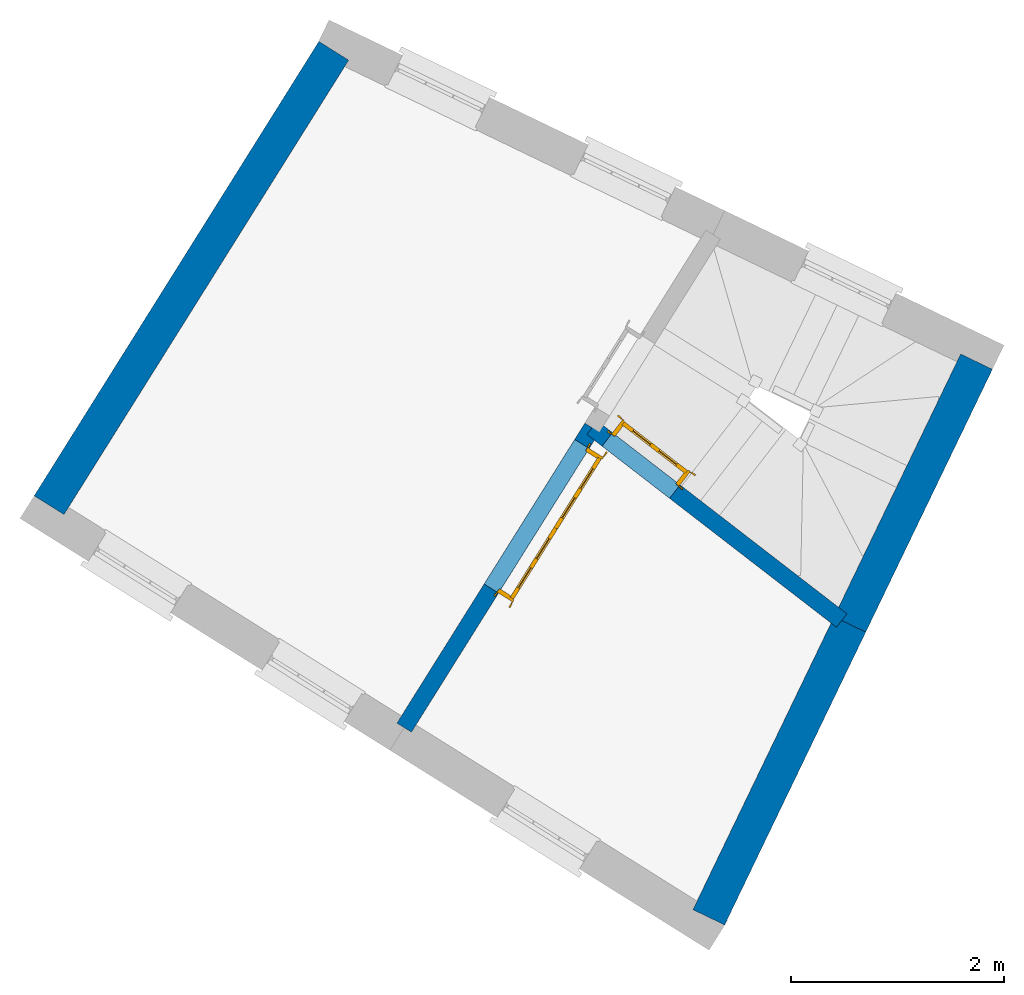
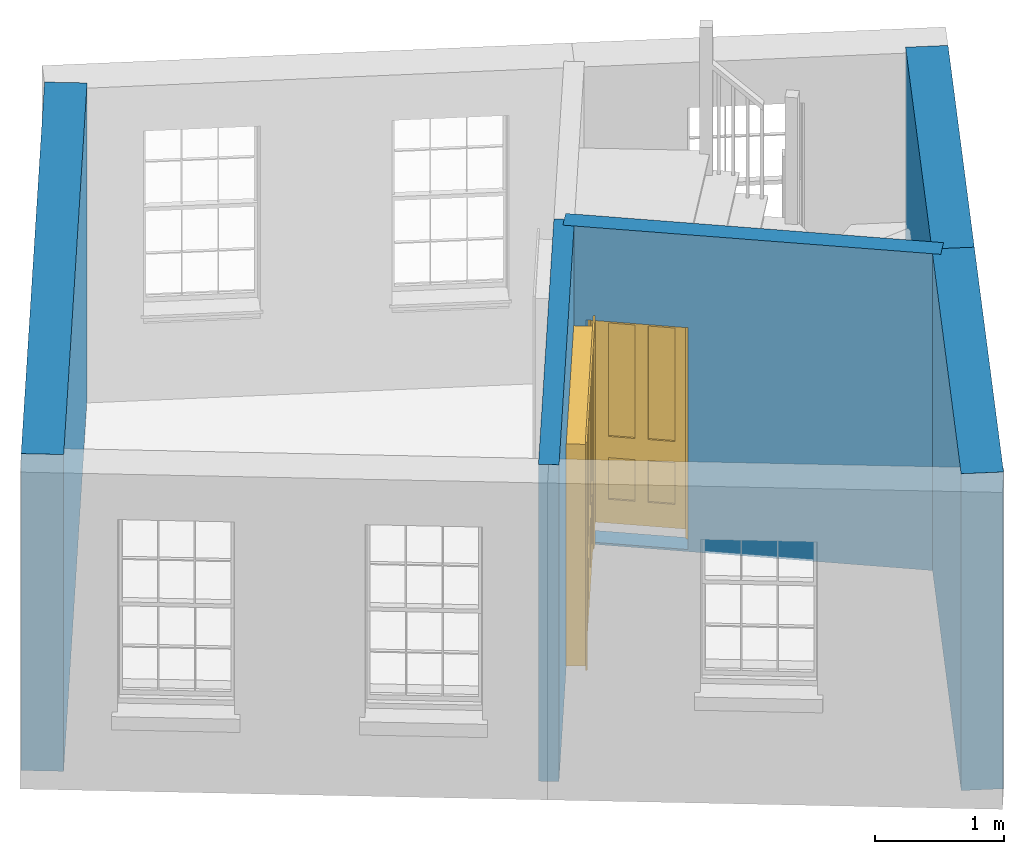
# One storey, part 2 of 4: 5 walls, 2 doors, 2 openings.
"""IFC4 building model written with IfcOpenShell, lengths in metres."""

from ifc_helpers import new_model, si_unit, frame, origin, origin_with_axes, place, context, subcontext, project, spatial, polyline, outline, extrude, faceted_brep, source, transform, mapped, material, layer, layer_set, layer_usage, type_object, type_shapes, element, fill, save


model = new_model("IFC4")

# Units and contexts
model_context = context("Model", 3, world=origin_with_axes())
body_context = subcontext(model_context, "Body", "Model", "MODEL_VIEW")
ifc_project = project(units=[si_unit("PLANEANGLEUNIT", "RADIAN"), si_unit("MASSUNIT", "GRAM", prefix="KILO"), si_unit("FORCEUNIT", "NEWTON", prefix="KILO"), si_unit("LENGTHUNIT", "METRE"), si_unit("AREAUNIT", "SQUARE_METRE"), si_unit("VOLUMEUNIT", "CUBIC_METRE")], contexts=[model_context, model_context])

# Sites, building, storey
site_1_placement = place(None, origin_with_axes())
site_1 = spatial("IfcSite", under=ifc_project, at=site_1_placement, Name="Tamar")
site_2_placement = place(site_1_placement, origin_with_axes())
site_2 = spatial("IfcSite", under=site_1, at=site_2_placement, Name="Site plot-0", CompositionType="ELEMENT")
building_placement = place(None, origin_with_axes())
building = spatial("IfcBuilding", under=site_2, at=building_placement, Name="Building plot-0", CompositionType="ELEMENT")
storey_placement = place(None, frame((0.0, 0.0, 29.3), z_axis=(0.0, 0.0, 1.0), x_axis=(1.0, 0.0, 0.0)))
storey = spatial("IfcBuildingStorey", under=building, at=storey_placement, Name="plot-0 1", CompositionType="ELEMENT", Elevation=29.3)

# Walls
ifc_material_1 = material(Name="Masonry")
ifc_layer_1 = layer(ifc_material_1, 0.33, ventilated=False)
ifc_layer_set_1 = layer_set([ifc_layer_1], Name="party_0.08_0.25")
ifc_layer_usage_1 = layer_usage(ifc_layer_set_1, "AXIS2", "POSITIVE", -0.25)
wall_type_1 = type_object("IfcWallType", Name="party_0.08_0.25", PredefinedType="SOLIDWALL", material=ifc_layer_set_1)
wall_1_placement = place(storey_placement, frame((215.519104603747, 302.912885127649, 0.0), z_axis=(0.0, 0.0, 1.0), x_axis=(-0.530945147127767, -0.847406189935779, 0.0)))
element("IfcWall", 1, at=wall_1_placement, inside=storey, type_object=wall_type_1, material=ifc_layer_usage_1, Name="party", context=body_context, shape_type="SweptSolid", body=[
    extrude(outline(polyline([(1.27412785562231e-16, 0.0799999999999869), (-5.53580703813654e-15, -0.250000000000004), (5.02851806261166, -0.250000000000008), (5.02851806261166, 0.079999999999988), (1.27412785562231e-16, 0.0799999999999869)])), origin_with_axes(), (0.0, 0.0, 1.0), 3.0),
])
wall_2_placement = place(storey_placement, frame((218.887112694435, 294.868637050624, 0.0), z_axis=(0.0, 0.0, 1.0), x_axis=(0.434117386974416, 0.900856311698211, 0.0)))
element("IfcWall", 2, at=wall_2_placement, inside=storey, type_object=wall_type_1, material=ifc_layer_usage_1, Name="party", context=body_context, shape_type="SweptSolid", body=[
    extrude(outline(polyline([(2.20850141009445e-14, 0.0800000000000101), (2.52728818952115e-14, -0.249999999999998), (3.0486230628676, -0.249999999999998), (3.04862306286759, 0.0800000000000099), (2.20850141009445e-14, 0.0800000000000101)])), origin_with_axes(), (0.0, 0.0, 1.0), 3.0),
])
wall_3_placement = place(storey_placement, frame((220.210572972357, 297.615008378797, 0.0), z_axis=(0.0, 0.0, 1.0), x_axis=(0.434117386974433, 0.900856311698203, 0.0)))
element("IfcWall", 3, at=wall_3_placement, inside=storey, type_object=wall_type_1, material=ifc_layer_usage_1, Name="party", context=body_context, shape_type="SweptSolid", body=[
    extrude(outline(polyline([(2.05218200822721e-14, 0.0800000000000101), (3.01578632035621e-14, -0.249999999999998), (2.7359777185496, -0.249999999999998), (2.73597771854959, 0.0800000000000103), (2.05218200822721e-14, 0.0800000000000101)])), origin_with_axes(), (0.0, 0.0, 1.0), 3.0),
])

# Wall, opening, door
ifc_material_2 = material(Name="Masonry")
ifc_layer_2 = layer(ifc_material_2, 0.16, ventilated=False)
ifc_layer_set_2 = layer_set([ifc_layer_2], Name="interior_0.08_0.08")
ifc_layer_usage_2 = layer_usage(ifc_layer_set_2, "AXIS2", "POSITIVE", -0.08)
wall_type_2 = type_object("IfcWallType", Name="interior_0.08_0.08", PredefinedType="SOLIDWALL", material=ifc_layer_set_2)
wall_4_placement = place(storey_placement, frame((217.869712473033, 299.423331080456, 0.0), z_axis=(0.0, 0.0, 1.0), x_axis=(0.791370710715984, -0.61133656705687, 0.0)))
wall_4 = element("IfcWall", 4, at=wall_4_placement, inside=storey, type_object=wall_type_2, material=ifc_layer_usage_2, Name="interior", context=body_context, shape_type="SweptSolid", body=[
    extrude(outline(polyline([(1.22262336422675e-14, 0.0799999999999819), (-1.22360308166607e-14, -0.0799999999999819), (2.95798222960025, -0.0799999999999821), (2.95798222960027, 0.0799999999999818), (1.22262336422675e-14, 0.0799999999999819)])), origin_with_axes(), (0.0, 0.0, 1.0), 3.0),
])
opening_1_placement = place(wall_4_placement, frame((0.179999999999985, 0.0, 0.0199999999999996)))
opening_1 = element("IfcOpeningElement", 5, at=opening_1_placement, cuts=wall_4, Name="My Opening", ObjectType="Opening", context=body_context, shape_type="SweptSolid", body=[
    extrude(outline(polyline([(0.0, -0.1), (0.800000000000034, -0.100000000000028), (0.800000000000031, 1.09999999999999), (-2.55351295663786e-15, 1.10000000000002), (0.0, -0.1)])), origin_with_axes(), (0.0, 0.0, 1.0), 2.1),
])
door_type_1 = type_object("IfcDoorType", Name="door_inside", OperationType="SINGLE_SWING_LEFT", PredefinedType="NOTDEFINED")
shared_shape_1 = source(origin(), body_context, "Body", "Brep", [
    faceted_brep([(0.773, 0.33, 1.895), (0.66, 0.33, 1.895), (0.66, 0.33, 2.073), (0.773, 0.33, 2.073), (0.773, 0.33, 0.82), (0.66, 0.33, 0.82), (0.45, 0.33, 1.895), (0.45, 0.33, 2.073), (0.773, 0.33, 0.62), (0.66, 0.33, 0.62), (0.66, 0.315, 0.82), (0.66, 0.315, 1.895), (0.45, 0.315, 1.895), (0.35, 0.33, 1.895), (0.35, 0.33, 2.073), (0.773, 0.33, 0.225), (0.66, 0.33, 0.225), (0.45, 0.33, 0.62), (0.45, 0.33, 0.82), (0.45, 0.315, 0.82), (0.35, 0.33, 0.82), (0.14, 0.33, 2.073), (0.14, 0.33, 1.895), (0.773, 0.33, 0.0), (0.66, 0.33, 0.0), (0.66, 0.315, 0.225), (0.66, 0.315, 0.62), (0.45, 0.315, 0.62), (0.35, 0.33, 0.62), (0.35, 0.315, 0.82), (0.35, 0.315, 1.895), (0.14, 0.315, 1.895), (0.027, 0.33, 2.073), (0.027, 0.33, 1.895), (0.773, 0.292, 0.0), (0.66, 0.292, 0.0), (0.45, 0.33, 0.0), (0.45, 0.33, 0.225), (0.45, 0.315, 0.225), (0.35, 0.33, 0.225), (0.14, 0.33, 0.82), (0.14, 0.33, 0.62), (0.14, 0.315, 0.82), (0.027, 0.33, 0.82), (0.773, 0.292, 0.225), (0.66, 0.292, 0.225), (0.45, 0.292, 0.0), (0.35, 0.33, 0.0), (0.35, 0.315, 0.225), (0.35, 0.315, 0.62), (0.14, 0.315, 0.62), (0.027, 0.33, 0.62), (0.773, 0.292, 0.62), (0.66, 0.292, 0.62), (0.45, 0.292, 0.225), (0.35, 0.292, 0.0), (0.14, 0.33, 0.225), (0.14, 0.33, 0.0), (0.14, 0.315, 0.225), (0.027, 0.33, 0.225), (0.773, 0.292, 0.82), (0.66, 0.292, 0.82), (0.66, 0.307, 0.62), (0.66, 0.307, 0.225), (0.45, 0.307, 0.225), (0.35, 0.292, 0.225), (0.14, 0.292, 0.0), (0.027, 0.33, 0.0), (0.773, 0.292, 1.895), (0.66, 0.292, 1.895), (0.45, 0.292, 0.62), (0.45, 0.292, 0.82), (0.45, 0.307, 0.62), (0.35, 0.292, 0.62), (0.14, 0.292, 0.225), (0.027, 0.292, 0.0), (0.773, 0.292, 2.073), (0.66, 0.292, 2.073), (0.66, 0.307, 1.895), (0.66, 0.307, 0.82), (0.45, 0.307, 0.82), (0.35, 0.292, 0.82), (0.35, 0.307, 0.62), (0.35, 0.307, 0.225), (0.14, 0.307, 0.225), (0.027, 0.292, 0.225), (0.45, 0.292, 1.895), (0.45, 0.292, 2.073), (0.45, 0.307, 1.895), (0.35, 0.292, 1.895), (0.14, 0.292, 0.82), (0.14, 0.292, 0.62), (0.14, 0.307, 0.62), (0.027, 0.292, 0.62), (0.35, 0.292, 2.073), (0.35, 0.307, 1.895), (0.35, 0.307, 0.82), (0.14, 0.307, 0.82), (0.027, 0.292, 0.82), (0.14, 0.292, 2.073), (0.14, 0.292, 1.895), (0.14, 0.307, 1.895), (0.027, 0.292, 1.895), (0.027, 0.292, 2.073), (0.02, 0.335, 0.0), (0.005, 0.34, 0.0), (0.005, 0.34, 2.095), (0.02, 0.335, 2.08), (0.02, 0.33, 0.0), (0.0, 0.335, 0.0), (0.0, 0.335, 2.1), (0.795, 0.34, 2.095), (0.78, 0.335, 2.08), (0.02, 0.33, 2.08), (0.0, 0.33, 0.0), (-0.032, 0.345, 0.0), (-0.032, 0.345, 2.132), (0.8, 0.335, 2.1), (0.795, 0.34, 0.0), (0.78, 0.335, 0.0), (0.78, 0.33, 2.08), (0.04, 0.29, 0.0), (0.025, 0.29, 0.0), (0.025, 0.29, 2.075), (0.04, 0.29, 2.06), (-0.04, 0.34, 0.0), (-0.04, 0.34, 2.14), (0.832, 0.345, 2.132), (0.8, 0.335, 0.0), (0.78, 0.33, 0.0), (0.8, 0.33, 0.0), (0.86, 0.33, 0.0), (0.86, 0.33, 2.16), (0.8, 0.33, 2.1), (-0.06, 0.33, 2.16), (0.0, 0.33, 2.1), (-0.06, 0.33, 0.0), (-0.04, 0.345, 0.0), (-0.04, 0.345, 2.14), (0.84, 0.34, 2.14), (0.832, 0.345, 0.0), (0.84, 0.34, 0.0), (0.86, 0.345, 0.0), (0.86, 0.345, 2.16), (-0.06, 0.345, 2.16), (-0.06, 0.345, 0.0), (0.84, 0.345, 0.0), (0.84, 0.345, 2.14), (-0.025, 0.155, 0.0), (-0.025, 0.16, 0.0), (-0.025, 0.16, 2.125), (-0.025, 0.155, 2.125), (-0.017, 0.155, 0.0), (-0.017, 0.155, 2.117), (0.825, 0.16, 2.125), (0.825, 0.155, 2.125), (0.825, 0.155, 0.0), (0.845, 0.155, 0.0), (-0.045, 0.155, 2.145), (-0.045, 0.155, 0.0), (0.845, 0.155, 2.145), (0.015, 0.165, 0.0), (0.015, 0.165, 2.085), (0.817, 0.155, 2.117), (0.825, 0.16, 0.0), (0.845, 0.17, 0.0), (0.845, 0.17, 2.145), (-0.045, 0.17, 2.145), (-0.045, 0.17, 0.0), (0.02, 0.16, 0.0), (0.02, 0.16, 2.08), (0.785, 0.165, 2.085), (0.817, 0.155, 0.0), (0.8, 0.17, 0.0), (0.8, 0.17, 2.1), (0.0, 0.17, 2.1), (0.0, 0.17, 0.0), (0.035, 0.165, 0.0), (0.035, 0.165, 2.065), (0.78, 0.16, 2.08), (0.785, 0.165, 0.0), (0.775, 0.29, 2.075), (0.76, 0.29, 2.06), (0.035, 0.17, 2.065), (0.035, 0.17, 0.0), (0.765, 0.165, 2.065), (0.78, 0.16, 0.0), (0.765, 0.17, 0.0), (0.765, 0.17, 2.065), (0.765, 0.165, 0.0), (0.04, 0.17, 2.06), (0.04, 0.17, 0.0), (0.76, 0.17, 2.06), (0.76, 0.17, 0.0), (0.76, 0.29, 0.0), (0.775, 0.29, 0.0), (0.025, 0.33, 0.0), (0.025, 0.33, 2.075), (0.775, 0.33, 0.0), (0.775, 0.33, 2.075)], [[[0, 1, 2, 3]], [[1, 0, 4, 5]], [[1, 6, 7, 2]], [[8, 9, 5, 4]], [[1, 5, 10, 11]], [[6, 1, 11, 12]], [[6, 13, 14, 7]], [[15, 16, 9, 8]], [[9, 17, 18, 5]], [[5, 18, 19, 10]], [[10, 19, 12, 11]], [[18, 6, 12, 19]], [[18, 20, 13, 6]], [[21, 14, 13, 22]], [[23, 24, 16, 15]], [[9, 16, 25, 26]], [[17, 9, 26, 27]], [[17, 28, 20, 18]], [[13, 20, 29, 30]], [[22, 13, 30, 31]], [[32, 21, 22, 33]], [[34, 35, 24, 23]], [[24, 36, 37, 16]], [[16, 37, 38, 25]], [[25, 38, 27, 26]], [[37, 17, 27, 38]], [[37, 39, 28, 17]], [[40, 20, 28, 41]], [[20, 40, 42, 29]], [[31, 30, 29, 42]], [[40, 22, 31, 42]], [[33, 22, 40, 43]], [[35, 34, 44, 45]], [[35, 46, 36, 24]], [[36, 47, 39, 37]], [[28, 39, 48, 49]], [[41, 28, 49, 50]], [[43, 40, 41, 51]], [[45, 44, 52, 53]], [[46, 35, 45, 54]], [[46, 55, 47, 36]], [[56, 39, 47, 57]], [[39, 56, 58, 48]], [[50, 49, 48, 58]], [[56, 41, 50, 58]], [[51, 41, 56, 59]], [[53, 52, 60, 61]], [[45, 53, 62, 63]], [[54, 45, 63, 64]], [[55, 46, 54, 65]], [[55, 66, 57, 47]], [[59, 56, 57, 67]], [[61, 60, 68, 69]], [[70, 53, 61, 71]], [[53, 70, 72, 62]], [[72, 64, 63, 62]], [[70, 54, 64, 72]], [[65, 54, 70, 73]], [[65, 74, 66, 55]], [[67, 57, 66, 75]], [[69, 68, 76, 77]], [[61, 69, 78, 79]], [[71, 61, 79, 80]], [[73, 70, 71, 81]], [[65, 73, 82, 83]], [[74, 65, 83, 84]], [[74, 85, 75, 66]], [[86, 69, 77, 87]], [[69, 86, 88, 78]], [[88, 80, 79, 78]], [[86, 71, 80, 88]], [[81, 71, 86, 89]], [[73, 81, 90, 91]], [[73, 91, 92, 82]], [[83, 82, 92, 84]], [[91, 74, 84, 92]], [[91, 93, 85, 74]], [[89, 86, 87, 94]], [[81, 89, 95, 96]], [[90, 81, 96, 97]], [[90, 98, 93, 91]], [[94, 99, 100, 89]], [[89, 100, 101, 95]], [[101, 97, 96, 95]], [[100, 90, 97, 101]], [[100, 102, 98, 90]], [[99, 103, 102, 100]], [[32, 103, 99, 21]], [[102, 103, 32, 33]], [[98, 102, 33, 43]], [[21, 99, 94, 14]], [[94, 87, 7, 14]], [[7, 87, 77, 2]], [[76, 3, 2, 77]], [[43, 51, 93, 98]], [[51, 59, 85, 93]], [[67, 75, 85, 59]], [[34, 23, 15, 44]], [[44, 15, 8, 52]], [[52, 8, 4, 60]], [[0, 68, 60, 4]], [[0, 3, 76, 68]], [[104, 105, 106, 107]], [[104, 108, 109, 105]], [[105, 109, 110, 106]], [[107, 106, 111, 112]], [[107, 113, 108, 104]], [[114, 109, 108]], [[109, 115, 116, 110]], [[106, 110, 117, 111]], [[112, 111, 118, 119]], [[113, 107, 112, 120]], [[121, 122, 123, 124]], [[115, 109, 114, 125]], [[115, 125, 126, 116]], [[110, 116, 127, 117]], [[111, 117, 128, 118]], [[118, 128, 129, 119]], [[120, 112, 119, 129]], [[130, 129, 128]], [[130, 131, 132, 133]], [[133, 132, 134, 135]], [[135, 134, 136, 114]], [[136, 125, 114]], [[125, 137, 138, 126]], [[116, 126, 139, 127]], [[117, 127, 140, 128]], [[141, 130, 128, 140]], [[131, 130, 141]], [[131, 142, 143, 132]], [[132, 143, 144, 134]], [[134, 144, 145, 136]], [[137, 125, 136, 145]], [[143, 142, 146]], [[143, 146, 147]], [[137, 145, 144]], [[143, 147, 138]], [[138, 137, 144]], [[143, 138, 144]], [[126, 138, 147, 139]], [[127, 139, 141, 140]], [[142, 131, 141, 146]], [[139, 147, 146, 141]], [[148, 149, 150, 151]], [[149, 152, 153, 150]], [[151, 150, 154, 155]], [[155, 156, 157]], [[158, 159, 148]], [[158, 148, 151]], [[155, 157, 160]], [[158, 151, 155]], [[155, 160, 158]], [[152, 161, 162, 153]], [[150, 153, 163, 154]], [[155, 154, 164, 156]], [[156, 164, 165, 157]], [[157, 165, 166, 160]], [[160, 166, 167, 158]], [[158, 167, 168, 159]], [[161, 169, 170, 162]], [[153, 162, 171, 163]], [[154, 163, 172, 164]], [[165, 164, 173]], [[165, 173, 174, 166]], [[166, 174, 175, 167]], [[167, 175, 176, 168]], [[169, 177, 178, 170]], [[162, 170, 179, 171]], [[163, 171, 180, 172]], [[172, 180, 173, 164]], [[124, 123, 181, 182]], [[183, 178, 177, 184]], [[170, 178, 185, 179]], [[171, 179, 186, 180]], [[187, 173, 180]], [[185, 188, 187, 189]], [[188, 185, 178, 183]], [[179, 185, 189, 186]], [[189, 187, 180, 186]], [[190, 183, 184, 191]], [[192, 188, 183, 190]], [[191, 184, 122, 121]], [[124, 190, 191, 121]], [[193, 187, 188, 192]], [[182, 192, 190, 124]], [[184, 176, 122]], [[194, 195, 187, 193]], [[192, 182, 194, 193]], [[161, 176, 184]], [[114, 108, 122, 176]], [[173, 187, 195]], [[152, 149, 176, 161]], [[169, 161, 184, 177]], [[196, 122, 108]], [[176, 175, 135, 114]], [[173, 195, 129, 130]], [[176, 149, 168]], [[123, 122, 196, 197]], [[196, 108, 113, 197]], [[175, 174, 133, 135]], [[198, 129, 195]], [[133, 174, 173, 130]], [[159, 168, 149, 148]], [[181, 123, 197, 199]], [[197, 113, 120, 199]], [[199, 120, 129, 198]], [[195, 181, 199, 198]], [[195, 194, 182, 181]]]),
])
type_shapes(door_type_1, [shared_shape_1])
door_1_placement = place(storey_placement, frame((217.951025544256, 299.234153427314, 0.0199999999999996), z_axis=(0.0, 0.0, 1.0), x_axis=(0.633096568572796, -0.489069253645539, 0.0)))
door_1 = element("IfcDoor", 6, at=door_1_placement, inside=storey, type_object=door_type_1, Name="kitchen inside door", OverallHeight=2.1, OverallWidth=0.8, context=body_context, shape_type="MappedRepresentation", body=[
    mapped(shared_shape_1, transform((0.0, 0.0, 0.0), scale=1.0)),
])
fill(opening_1, door_1)

wall_5_placement = place(storey_placement, frame((217.869712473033, 299.423331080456, 0.0), z_axis=(0.0, 0.0, 1.0), x_axis=(-0.530945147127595, -0.847406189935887, 0.0)))
wall_5 = element("IfcWall", 7, at=wall_5_placement, inside=storey, type_object=wall_type_2, material=ifc_layer_usage_2, Name="interior", context=body_context, shape_type="SweptSolid", body=[
    extrude(outline(polyline([(1.19322688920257e-15, 0.080000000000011), (-1.20302406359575e-15, -0.080000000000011), (3.31949220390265, -0.0800000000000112), (3.31949220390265, 0.0800000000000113), (1.19322688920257e-15, 0.080000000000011)])), origin_with_axes(), (0.0, 0.0, 1.0), 3.0),
])
opening_2_placement = place(wall_5_placement, frame((0.180000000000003, 0.0, 0.0199999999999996)))
opening_2 = element("IfcOpeningElement", 8, at=opening_2_placement, cuts=wall_5, Name="My Opening", ObjectType="Opening", context=body_context, shape_type="SweptSolid", body=[
    extrude(outline(polyline([(0.0, -0.0999999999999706), (1.59999999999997, -0.100000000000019), (1.59999999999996, 1.09999999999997), (-2.33146835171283e-15, 1.10000000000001), (0.0, -0.0999999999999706)])), origin_with_axes(), (0.0, 0.0, 1.0), 2.1),
])
door_type_2 = type_object("IfcDoorType", Name="door_inside_double", OperationType="SINGLE_SWING_LEFT", PredefinedType="NOTDEFINED")
shared_shape_2 = source(origin(), body_context, "Body", "Brep", [
    faceted_brep([(0.14, 0.307, 1.895), (0.14, 0.307, 0.82), (0.363, 0.307, 0.82), (0.363, 0.307, 1.895), (0.14, 0.292, 1.895), (0.14, 0.292, 0.82), (0.363, 0.292, 0.82), (0.363, 0.292, 1.895), (0.027, 0.292, 1.895), (0.027, 0.292, 0.82), (0.363, 0.292, 0.62), (0.14, 0.292, 0.62), (0.463, 0.292, 0.82), (0.463, 0.292, 1.895), (0.363, 0.292, 2.073), (0.14, 0.292, 2.073), (0.027, 0.292, 2.073), (0.027, 0.33, 1.895), (0.027, 0.33, 0.82), (0.027, 0.292, 0.62), (0.463, 0.292, 0.62), (0.14, 0.307, 0.62), (0.363, 0.307, 0.62), (0.463, 0.307, 0.82), (0.463, 0.307, 1.895), (0.463, 0.292, 2.073), (0.14, 0.33, 2.073), (0.363, 0.33, 2.073), (0.027, 0.33, 2.073), (0.14, 0.33, 1.895), (0.14, 0.33, 0.82), (0.027, 0.33, 0.62), (0.027, 0.292, 0.225), (0.14, 0.292, 0.225), (0.363, 0.292, 0.225), (0.463, 0.292, 0.225), (0.686, 0.292, 0.62), (0.686, 0.292, 0.82), (0.14, 0.307, 0.225), (0.363, 0.307, 0.225), (0.686, 0.307, 0.82), (0.686, 0.307, 1.895), (0.686, 0.292, 1.895), (0.686, 0.292, 2.073), (0.463, 0.33, 2.073), (0.363, 0.33, 1.895), (0.14, 0.315, 1.895), (0.14, 0.315, 0.82), (0.14, 0.33, 0.62), (0.027, 0.33, 0.225), (0.027, 0.292, 0.0), (0.14, 0.292, 0.0), (0.363, 0.292, 0.0), (0.463, 0.292, 0.0), (0.463, 0.307, 0.225), (0.463, 0.307, 0.62), (0.686, 0.307, 0.62), (0.799, 0.292, 0.62), (0.799, 0.292, 0.82), (0.799, 0.292, 1.895), (0.799, 0.292, 2.073), (0.686, 0.33, 2.073), (0.463, 0.33, 1.895), (0.363, 0.315, 1.895), (0.363, 0.315, 0.82), (0.363, 0.33, 0.82), (0.363, 0.33, 0.62), (0.14, 0.33, 0.225), (0.027, 0.33, 0.0), (0.14, 0.33, 0.0), (0.363, 0.33, 0.0), (0.463, 0.33, 0.0), (0.686, 0.292, 0.0), (0.686, 0.292, 0.225), (0.686, 0.307, 0.225), (0.799, 0.292, 0.225), (0.799, 0.33, 0.62), (0.799, 0.33, 0.82), (0.799, 0.33, 1.895), (0.799, 0.33, 2.073), (0.686, 0.33, 1.895), (0.463, 0.33, 0.82), (0.463, 0.33, 0.62), (0.363, 0.315, 0.62), (0.14, 0.315, 0.62), (0.14, 0.315, 0.225), (0.363, 0.33, 0.225), (0.463, 0.33, 0.225), (0.686, 0.33, 0.0), (0.799, 0.292, 0.0), (0.799, 0.33, 0.225), (0.686, 0.33, 0.62), (0.686, 0.33, 0.82), (0.686, 0.315, 1.895), (0.463, 0.315, 1.895), (0.463, 0.315, 0.82), (0.363, 0.315, 0.225), (0.686, 0.33, 0.225), (0.799, 0.33, 0.0), (0.686, 0.315, 0.82), (0.463, 0.315, 0.62), (0.463, 0.315, 0.225), (0.686, 0.315, 0.62), (0.686, 0.315, 0.225), (1.46, 0.33, 1.895), (1.237, 0.33, 1.895), (1.237, 0.33, 2.073), (1.46, 0.33, 2.073), (1.46, 0.315, 1.895), (1.237, 0.315, 1.895), (1.137, 0.33, 1.895), (1.137, 0.33, 2.073), (1.237, 0.292, 2.073), (1.46, 0.292, 2.073), (1.573, 0.33, 1.895), (1.573, 0.33, 2.073), (1.46, 0.33, 0.82), (1.46, 0.315, 0.82), (1.237, 0.315, 0.82), (1.237, 0.33, 0.82), (1.137, 0.33, 0.82), (0.914, 0.33, 2.073), (0.914, 0.33, 1.895), (1.137, 0.292, 2.073), (1.237, 0.292, 1.895), (1.46, 0.292, 1.895), (1.573, 0.292, 2.073), (1.573, 0.33, 0.82), (1.573, 0.292, 1.895), (1.237, 0.33, 0.62), (1.137, 0.33, 0.62), (1.137, 0.315, 0.82), (1.137, 0.315, 1.895), (0.914, 0.292, 2.073), (0.914, 0.315, 1.895), (0.801, 0.33, 2.073), (0.801, 0.33, 1.895), (1.137, 0.292, 1.895), (1.237, 0.307, 1.895), (1.46, 0.307, 1.895), (1.573, 0.292, 0.82), (1.573, 0.33, 0.62), (1.46, 0.33, 0.62), (1.237, 0.33, 0.225), (1.137, 0.33, 0.225), (0.914, 0.33, 0.82), (0.914, 0.33, 0.62), (0.914, 0.315, 0.82), (0.801, 0.292, 2.073), (0.914, 0.292, 1.895), (0.801, 0.33, 0.82), (0.801, 0.292, 1.895), (1.137, 0.292, 0.82), (1.237, 0.292, 0.82), (1.237, 0.307, 0.82), (1.46, 0.307, 0.82), (1.46, 0.292, 0.82), (1.573, 0.292, 0.62), (1.573, 0.33, 0.225), (1.46, 0.33, 0.225), (1.46, 0.315, 0.62), (1.237, 0.315, 0.62), (1.237, 0.33, 0.0), (1.137, 0.33, 0.0), (1.137, 0.315, 0.225), (1.137, 0.315, 0.62), (1.237, 0.315, 0.225), (0.914, 0.315, 0.62), (0.801, 0.33, 0.62), (0.914, 0.307, 1.895), (1.137, 0.307, 1.895), (0.801, 0.292, 0.82), (1.137, 0.292, 0.62), (1.237, 0.292, 0.62), (1.137, 0.307, 0.82), (1.46, 0.292, 0.62), (1.573, 0.292, 0.225), (1.573, 0.33, 0.0), (1.46, 0.33, 0.0), (1.46, 0.315, 0.225), (1.237, 0.292, 0.0), (1.137, 0.292, 0.0), (0.914, 0.33, 0.225), (0.914, 0.33, 0.0), (0.914, 0.315, 0.225), (0.801, 0.33, 0.225), (0.801, 0.292, 0.62), (0.914, 0.292, 0.82), (0.914, 0.307, 0.82), (1.137, 0.292, 0.225), (1.237, 0.292, 0.225), (0.914, 0.292, 0.62), (1.46, 0.292, 0.225), (1.573, 0.292, 0.0), (1.46, 0.292, 0.0), (0.914, 0.292, 0.0), (0.801, 0.33, 0.0), (0.801, 0.292, 0.225), (1.237, 0.307, 0.225), (1.237, 0.307, 0.62), (1.137, 0.307, 0.62), (1.137, 0.307, 0.225), (1.46, 0.307, 0.62), (0.914, 0.307, 0.62), (1.46, 0.307, 0.225), (0.914, 0.292, 0.225), (0.801, 0.292, 0.0), (0.914, 0.307, 0.225), (0.02, 0.335, 0.0), (0.005, 0.34, 0.0), (0.005, 0.34, 2.095), (0.02, 0.335, 2.08), (0.02, 0.33, 0.0), (0.0, 0.335, 0.0), (0.0, 0.335, 2.1), (1.595, 0.34, 2.095), (1.58, 0.335, 2.08), (0.02, 0.33, 2.08), (0.0, 0.33, 0.0), (-0.032, 0.345, 0.0), (-0.032, 0.345, 2.132), (1.6, 0.335, 2.1), (1.595, 0.34, 0.0), (1.58, 0.335, 0.0), (1.58, 0.33, 2.08), (0.025, 0.33, 0.0), (0.025, 0.33, 2.075), (-0.04, 0.34, 0.0), (0.025, 0.29, 0.0), (0.0, 0.17, 0.0), (-0.04, 0.34, 2.14), (1.632, 0.345, 2.132), (1.6, 0.335, 0.0), (1.58, 0.33, 0.0), (1.575, 0.33, 2.075), (0.025, 0.29, 2.075), (-0.06, 0.33, 0.0), (0.035, 0.17, 0.0), (0.0, 0.17, 2.1), (0.0, 0.33, 2.1), (-0.04, 0.345, 0.0), (-0.04, 0.345, 2.14), (1.64, 0.34, 2.14), (1.632, 0.345, 0.0), (1.6, 0.33, 0.0), (1.575, 0.33, 0.0), (1.575, 0.29, 2.075), (0.04, 0.29, 0.0), (0.04, 0.29, 2.06), (-0.06, 0.345, 0.0), (-0.06, 0.33, 2.16), (0.015, 0.165, 0.0), (0.04, 0.17, 0.0), (-0.045, 0.17, 2.145), (-0.045, 0.17, 0.0), (1.6, 0.17, 2.1), (1.6, 0.33, 2.1), (-0.06, 0.345, 2.16), (1.64, 0.345, 2.14), (1.64, 0.34, 0.0), (1.6, 0.17, 0.0), (1.575, 0.29, 0.0), (1.56, 0.29, 2.06), (0.04, 0.17, 2.06), (1.66, 0.33, 2.16), (-0.017, 0.155, 0.0), (-0.025, 0.16, 0.0), (0.02, 0.16, 0.0), (0.035, 0.165, 0.0), (0.035, 0.17, 2.065), (1.645, 0.17, 2.145), (-0.045, 0.155, 2.145), (-0.045, 0.155, 0.0), (1.66, 0.345, 2.16), (1.64, 0.345, 0.0), (1.66, 0.33, 0.0), (1.565, 0.17, 0.0), (1.56, 0.29, 0.0), (1.56, 0.17, 2.06), (-0.017, 0.155, 2.117), (-0.025, 0.16, 2.125), (0.015, 0.165, 2.085), (0.02, 0.16, 2.08), (0.035, 0.165, 2.065), (1.565, 0.17, 2.065), (1.645, 0.17, 0.0), (1.645, 0.155, 2.145), (-0.025, 0.155, 0.0), (1.66, 0.345, 0.0), (1.585, 0.165, 0.0), (1.56, 0.17, 0.0), (1.617, 0.155, 2.117), (1.625, 0.16, 2.125), (-0.025, 0.155, 2.125), (1.585, 0.165, 2.085), (1.58, 0.16, 2.08), (1.565, 0.165, 2.065), (1.625, 0.16, 0.0), (1.645, 0.155, 0.0), (1.625, 0.155, 2.125), (1.617, 0.155, 0.0), (1.565, 0.165, 0.0), (1.58, 0.16, 0.0), (1.625, 0.155, 0.0)], [[[0, 1, 2, 3]], [[1, 0, 4, 5]], [[2, 1, 5, 6]], [[6, 7, 3, 2]], [[7, 4, 0, 3]], [[4, 8, 9, 5]], [[10, 6, 5, 11]], [[6, 12, 13, 7]], [[14, 15, 4, 7]], [[15, 16, 8, 4]], [[9, 8, 17, 18]], [[5, 9, 19, 11]], [[10, 20, 12, 6]], [[10, 11, 21, 22]], [[13, 12, 23, 24]], [[7, 13, 25, 14]], [[26, 15, 14, 27]], [[28, 16, 15, 26]], [[8, 16, 28, 17]], [[17, 29, 30, 18]], [[18, 31, 19, 9]], [[11, 19, 32, 33]], [[34, 35, 20, 10]], [[20, 36, 37, 12]], [[11, 33, 38, 21]], [[39, 22, 21, 38]], [[34, 10, 22, 39]], [[12, 37, 40, 23]], [[24, 23, 40, 41]], [[42, 13, 24, 41]], [[13, 42, 43, 25]], [[14, 25, 44, 27]], [[26, 27, 45, 29]], [[28, 26, 29, 17]], [[30, 29, 46, 47]], [[18, 30, 48, 31]], [[31, 49, 32, 19]], [[33, 32, 50, 51]], [[52, 53, 35, 34]], [[20, 35, 54, 55]], [[36, 20, 55, 56]], [[36, 57, 58, 37]], [[33, 34, 39, 38]], [[37, 42, 41, 40]], [[42, 59, 60, 43]], [[44, 25, 43, 61]], [[62, 45, 27, 44]], [[29, 45, 63, 46]], [[46, 63, 64, 47]], [[65, 30, 47, 64]], [[30, 65, 66, 48]], [[31, 48, 67, 49]], [[68, 50, 32, 49]], [[68, 69, 51, 50]], [[34, 33, 51, 52]], [[53, 52, 70, 71]], [[53, 72, 73, 35]], [[35, 73, 74, 54]], [[55, 54, 74, 56]], [[73, 36, 56, 74]], [[73, 75, 57, 36]], [[57, 76, 77, 58]], [[37, 58, 59, 42]], [[78, 79, 60, 59]], [[60, 79, 61, 43]], [[80, 62, 44, 61]], [[81, 65, 45, 62]], [[45, 65, 64, 63]], [[82, 66, 65, 81]], [[48, 66, 83, 84]], [[67, 48, 84, 85]], [[49, 67, 69, 68]], [[52, 51, 69, 70]], [[71, 70, 86, 87]], [[72, 53, 71, 88]], [[72, 89, 75, 73]], [[75, 90, 76, 57]], [[76, 91, 92, 77]], [[78, 59, 58, 77]], [[78, 80, 61, 79]], [[62, 80, 93, 94]], [[81, 62, 94, 95]], [[87, 86, 66, 82]], [[91, 82, 81, 92]], [[66, 86, 96, 83]], [[84, 83, 96, 85]], [[86, 67, 85, 96]], [[67, 86, 70, 69]], [[88, 71, 87, 97]], [[89, 72, 88, 98]], [[89, 98, 90, 75]], [[90, 97, 91, 76]], [[80, 78, 77, 92]], [[80, 92, 99, 93]], [[99, 95, 94, 93]], [[92, 81, 95, 99]], [[87, 82, 100, 101]], [[82, 91, 102, 100]], [[97, 87, 101, 103]], [[98, 88, 97, 90]], [[91, 97, 103, 102]], [[103, 101, 100, 102]], [[104, 105, 106, 107]], [[105, 104, 108, 109]], [[105, 110, 111, 106]], [[106, 112, 113, 107]], [[114, 104, 107, 115]], [[104, 116, 117, 108]], [[117, 118, 109, 108]], [[119, 105, 109, 118]], [[119, 120, 110, 105]], [[121, 111, 110, 122]], [[123, 112, 106, 111]], [[124, 125, 113, 112]], [[126, 115, 107, 113]], [[104, 114, 127, 116]], [[114, 115, 126, 128]], [[116, 119, 118, 117]], [[129, 130, 120, 119]], [[110, 120, 131, 132]], [[121, 133, 123, 111]], [[122, 110, 132, 134]], [[135, 121, 122, 136]], [[137, 124, 112, 123]], [[125, 124, 138, 139]], [[125, 128, 126, 113]], [[114, 128, 140, 127]], [[141, 142, 116, 127]], [[142, 129, 119, 116]], [[143, 144, 130, 129]], [[145, 120, 130, 146]], [[120, 145, 147, 131]], [[134, 132, 131, 147]], [[135, 148, 133, 121]], [[123, 133, 149, 137]], [[145, 122, 134, 147]], [[136, 122, 145, 150]], [[151, 148, 135, 136]], [[152, 153, 124, 137]], [[124, 153, 154, 138]], [[138, 154, 155, 139]], [[156, 125, 139, 155]], [[156, 140, 128, 125]], [[157, 141, 127, 140]], [[158, 159, 142, 141]], [[129, 142, 160, 161]], [[162, 163, 144, 143]], [[130, 144, 164, 165]], [[143, 129, 161, 166]], [[146, 130, 165, 167]], [[150, 145, 146, 168]], [[133, 148, 151, 149]], [[137, 149, 169, 170]], [[171, 151, 136, 150]], [[172, 173, 153, 152]], [[152, 137, 170, 174]], [[153, 156, 155, 154]], [[175, 157, 140, 156]], [[176, 158, 141, 157]], [[177, 178, 159, 158]], [[142, 159, 179, 160]], [[179, 166, 161, 160]], [[180, 181, 163, 162]], [[182, 144, 163, 183]], [[178, 162, 143, 159]], [[144, 182, 184, 164]], [[167, 165, 164, 184]], [[159, 143, 166, 179]], [[182, 146, 167, 184]], [[168, 146, 182, 185]], [[150, 168, 186, 171]], [[149, 151, 171, 187]], [[149, 187, 188, 169]], [[169, 188, 174, 170]], [[189, 190, 173, 172]], [[173, 175, 156, 153]], [[172, 152, 187, 191]], [[187, 152, 174, 188]], [[192, 176, 157, 175]], [[193, 177, 158, 176]], [[193, 194, 178, 177]], [[181, 180, 190, 189]], [[181, 195, 183, 163]], [[194, 180, 162, 178]], [[185, 182, 183, 196]], [[168, 185, 197, 186]], [[187, 171, 186, 191]], [[173, 190, 198, 199]], [[189, 172, 200, 201]], [[175, 173, 199, 202]], [[172, 191, 203, 200]], [[194, 193, 176, 192]], [[192, 175, 202, 204]], [[180, 194, 192, 190]], [[189, 205, 195, 181]], [[196, 183, 195, 206]], [[196, 206, 197, 185]], [[191, 186, 197, 205]], [[190, 192, 204, 198]], [[199, 198, 204, 202]], [[201, 200, 203, 207]], [[205, 189, 201, 207]], [[191, 205, 207, 203]], [[205, 197, 206, 195]], [[208, 209, 210, 211]], [[208, 212, 213, 209]], [[209, 213, 214, 210]], [[211, 210, 215, 216]], [[211, 217, 212, 208]], [[218, 213, 212]], [[213, 219, 220, 214]], [[210, 214, 221, 215]], [[216, 215, 222, 223]], [[217, 211, 216, 224]], [[225, 212, 217, 226]], [[219, 213, 218, 227]], [[218, 212, 228, 229]], [[219, 227, 230, 220]], [[214, 220, 231, 221]], [[215, 221, 232, 222]], [[222, 232, 233, 223]], [[224, 216, 223, 233]], [[226, 217, 224, 234]], [[225, 228, 212]], [[235, 228, 225, 226]], [[236, 227, 218]], [[237, 229, 228]], [[229, 238, 239, 218]], [[227, 240, 241, 230]], [[220, 230, 242, 231]], [[221, 231, 243, 232]], [[244, 233, 232]], [[234, 224, 233, 245]], [[246, 235, 226, 234]], [[247, 228, 235, 248]], [[240, 227, 236, 249]], [[239, 250, 236, 218]], [[251, 229, 237]], [[252, 237, 228, 247]], [[253, 238, 229, 254]], [[238, 255, 256, 239]], [[241, 240, 257]], [[230, 241, 258, 242]], [[231, 242, 259, 243]], [[259, 244, 232, 243]], [[260, 261, 233, 244]], [[245, 233, 261]], [[261, 246, 234, 245]], [[248, 235, 246, 262]], [[248, 263, 252, 247]], [[250, 257, 249, 236]], [[240, 249, 257]], [[256, 264, 250, 239]], [[265, 266, 229, 251]], [[267, 251, 237, 268]], [[263, 269, 237, 252]], [[270, 255, 238, 253]], [[229, 266, 254]], [[271, 253, 254, 272]], [[256, 255, 260, 244]], [[273, 241, 257]], [[273, 258, 241]], [[242, 258, 274, 259]], [[275, 244, 259]], [[260, 276, 261]], [[261, 277, 262, 246]], [[262, 278, 263, 248]], [[264, 273, 257, 250]], [[244, 275, 264, 256]], [[266, 265, 279, 280]], [[265, 251, 281, 279]], [[251, 267, 282, 281]], [[269, 283, 268, 237]], [[267, 268, 283, 282]], [[278, 284, 269, 263]], [[285, 260, 255, 270]], [[286, 270, 253, 271]], [[272, 254, 266, 287]], [[271, 272, 287]], [[273, 274, 258]], [[288, 275, 259, 274]], [[276, 260, 289]], [[277, 261, 276, 290]], [[278, 262, 277, 290]], [[275, 288, 273, 264]], [[280, 279, 291, 292]], [[287, 266, 280, 293]], [[279, 281, 294, 291]], [[281, 282, 295, 294]], [[284, 296, 283, 269]], [[282, 283, 296, 295]], [[290, 276, 284, 278]], [[285, 297, 260]], [[298, 285, 270, 286]], [[299, 286, 271]], [[271, 287, 293]], [[273, 288, 274]], [[300, 289, 260, 297]], [[301, 276, 289, 302]], [[292, 291, 300, 297]], [[293, 280, 292, 299]], [[291, 294, 289, 300]], [[294, 295, 302, 289]], [[296, 284, 276, 301]], [[295, 296, 301, 302]], [[303, 297, 285, 298]], [[299, 298, 286]], [[271, 293, 299]], [[299, 292, 297, 303]], [[299, 303, 298]]]),
])
type_shapes(door_type_2, [shared_shape_2])
door_2_placement = place(storey_placement, frame((217.689401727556, 299.32389248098, 0.0199999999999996), z_axis=(0.0, 0.0, 1.0), x_axis=(-0.849512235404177, -1.35584990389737, 0.0)))
door_2 = element("IfcDoor", 9, at=door_2_placement, inside=storey, type_object=door_type_2, Name="kitchen living inside door", OverallHeight=2.1, OverallWidth=1.6, context=body_context, shape_type="MappedRepresentation", body=[
    mapped(shared_shape_2, transform((0.0, 0.0, 0.0), scale=1.0)),
])
fill(opening_2, door_2)

save(model, "model.ifc")
